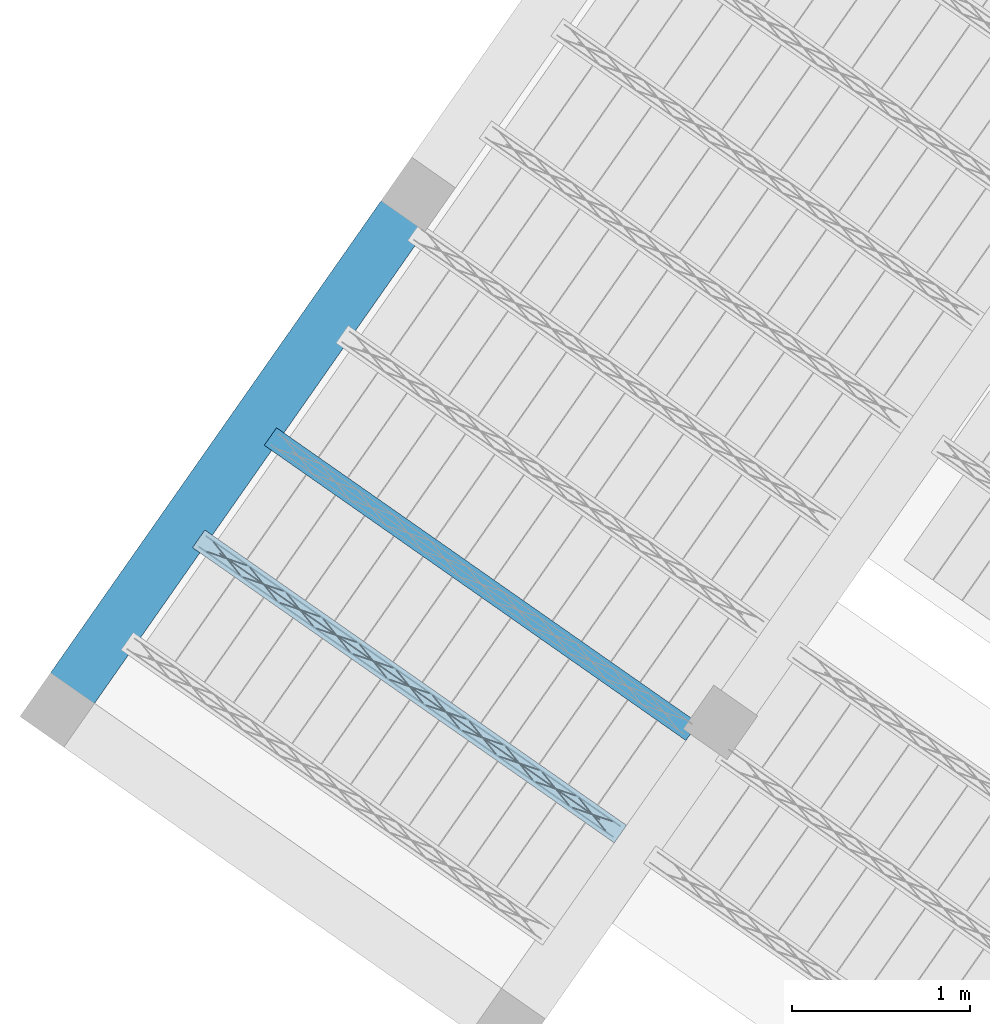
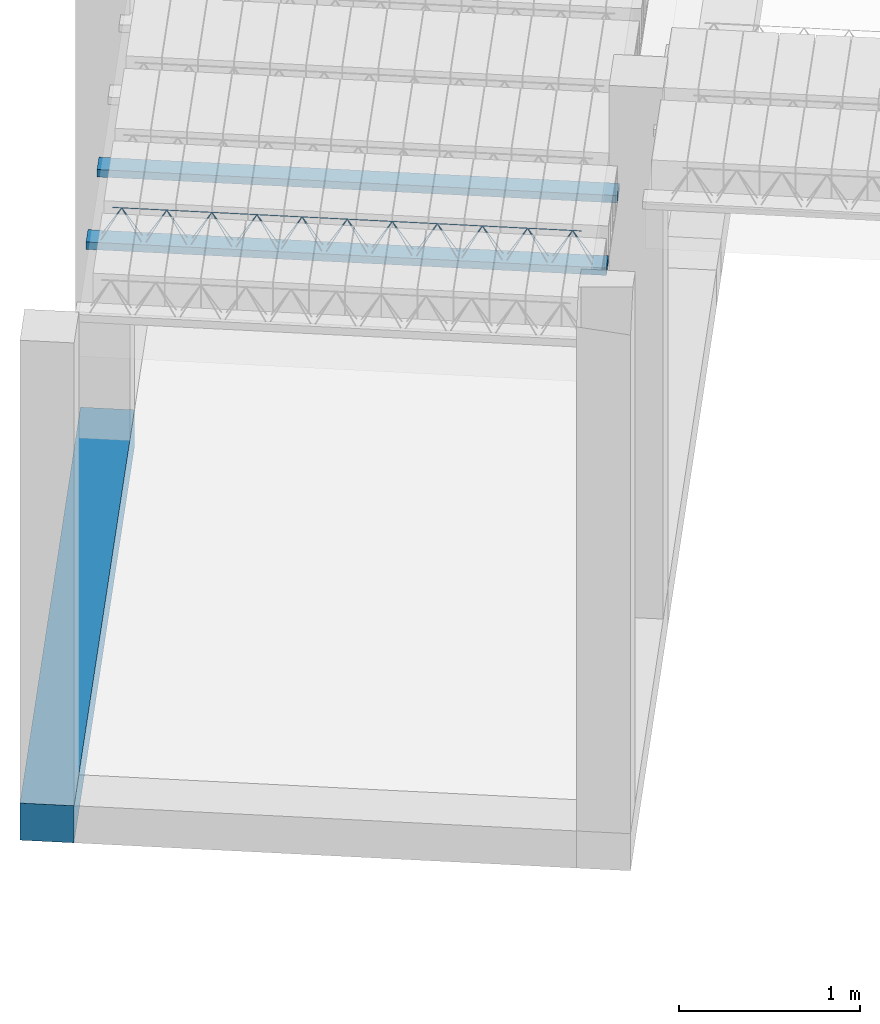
# One storey, part 11 of 80: 3 beams.
"""IFC2X3 building model written with IfcOpenShell, lengths in metres."""

from ifc_helpers import new_model, entity, si_unit, converted_unit, derived_unit, direction, frame, frame_2d, origin, origin_2d_with_axis, place, context, subcontext, project, spatial, rectangle, circle, extrude, material, type_object, element, save


model = new_model("IFC2X3")

# Units and contexts
model_context = context("Model", 3, precision=1e-05, world=origin(), true_north=direction((6.123031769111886e-17, 1.0)))
body_context = subcontext(model_context, "Body", "Model", "MODEL_VIEW")
ifc_project = project(units=[si_unit("LENGTHUNIT", "METRE"), si_unit("AREAUNIT", "SQUARE_METRE"), si_unit("VOLUMEUNIT", "CUBIC_METRE"), converted_unit("PLANEANGLEUNIT", "DEGREE", entity("IfcPlaneAngleMeasure", 0.017453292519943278), si_unit("PLANEANGLEUNIT", "RADIAN"), dimensions=[0, 0, 0, 0, 0, 0, 0]), si_unit("MASSUNIT", "GRAM", prefix="KILO"), derived_unit("MASSDENSITYUNIT", [(si_unit("MASSUNIT", "GRAM", prefix="KILO"), 1), (si_unit("LENGTHUNIT", "METRE"), -3)]), derived_unit("IONCONCENTRATIONUNIT", [(si_unit("MASSUNIT", "GRAM", prefix="KILO"), 1), (si_unit("LENGTHUNIT", "METRE"), -3)]), derived_unit("MOMENTOFINERTIAUNIT", [(si_unit("LENGTHUNIT", "METRE"), 4)]), si_unit("TIMEUNIT", "SECOND"), si_unit("FREQUENCYUNIT", "HERTZ"), si_unit("THERMODYNAMICTEMPERATUREUNIT", "DEGREE_CELSIUS"), derived_unit("THERMALTRANSMITTANCEUNIT", [(si_unit("MASSUNIT", "GRAM", prefix="KILO"), 1), (si_unit("THERMODYNAMICTEMPERATUREUNIT", "KELVIN"), -1), (si_unit("TIMEUNIT", "SECOND"), -3)]), derived_unit("THERMALCONDUCTANCEUNIT", [(si_unit("MASSUNIT", "GRAM", prefix="KILO"), 1), (si_unit("THERMODYNAMICTEMPERATUREUNIT", "KELVIN"), -1), (si_unit("TIMEUNIT", "SECOND"), -3), (si_unit("LENGTHUNIT", "METRE"), 1)]), derived_unit("VOLUMETRICFLOWRATEUNIT", [(si_unit("LENGTHUNIT", "METRE", prefix="DECI"), 3), (si_unit("TIMEUNIT", "SECOND"), -1)]), derived_unit("MASSFLOWRATEUNIT", [(si_unit("MASSUNIT", "GRAM", prefix="KILO"), 1), (si_unit("TIMEUNIT", "SECOND"), -1)]), derived_unit("ROTATIONALFREQUENCYUNIT", [(si_unit("TIMEUNIT", "SECOND"), -1)]), si_unit("ELECTRICCURRENTUNIT", "AMPERE"), si_unit("ELECTRICVOLTAGEUNIT", "VOLT"), si_unit("POWERUNIT", "WATT"), si_unit("FORCEUNIT", "NEWTON", prefix="KILO"), si_unit("ILLUMINANCEUNIT", "LUX"), si_unit("LUMINOUSFLUXUNIT", "LUMEN"), si_unit("LUMINOUSINTENSITYUNIT", "CANDELA"), si_unit("ENERGYUNIT", "JOULE"), derived_unit("USERDEFINED", [(si_unit("MASSUNIT", "GRAM", prefix="KILO"), -1), (si_unit("LENGTHUNIT", "METRE"), -2), (si_unit("TIMEUNIT", "SECOND"), 3), (si_unit("LUMINOUSFLUXUNIT", "LUMEN"), 1)]), derived_unit("USERDEFINED", [(si_unit("MASSUNIT", "GRAM", prefix="KILO"), 1), (si_unit("TIMEUNIT", "SECOND"), -3), (si_unit("LENGTHUNIT", "METRE"), 3), (si_unit("ELECTRICCURRENTUNIT", "AMPERE"), -2)]), derived_unit("SOUNDPOWERUNIT", [(si_unit("MASSUNIT", "GRAM", prefix="KILO"), 1), (si_unit("TIMEUNIT", "SECOND"), -3), (si_unit("LENGTHUNIT", "METRE"), 2)]), derived_unit("SOUNDPRESSUREUNIT", [(si_unit("MASSUNIT", "GRAM", prefix="KILO"), 1), (si_unit("LENGTHUNIT", "METRE"), -1), (si_unit("TIMEUNIT", "SECOND"), -2)]), derived_unit("LINEARVELOCITYUNIT", [(si_unit("LENGTHUNIT", "METRE"), 1), (si_unit("TIMEUNIT", "SECOND"), -1)]), si_unit("PRESSUREUNIT", "PASCAL"), derived_unit("USERDEFINED", [(si_unit("MASSUNIT", "GRAM", prefix="KILO"), 1), (si_unit("LENGTHUNIT", "METRE"), -2), (si_unit("TIMEUNIT", "SECOND"), -2)]), derived_unit("LINEARFORCEUNIT", [(si_unit("MASSUNIT", "GRAM", prefix="KILO"), 1), (si_unit("TIMEUNIT", "SECOND"), -2)]), derived_unit("PLANARFORCEUNIT", [(si_unit("MASSUNIT", "GRAM", prefix="KILO"), 1), (si_unit("LENGTHUNIT", "METRE"), -1), (si_unit("TIMEUNIT", "SECOND"), -2)]), derived_unit("SPECIFICHEATCAPACITYUNIT", [(si_unit("THERMODYNAMICTEMPERATUREUNIT", "KELVIN"), -1), (si_unit("LENGTHUNIT", "METRE"), 2), (si_unit("TIMEUNIT", "SECOND"), -2)]), derived_unit("HEATFLUXDENSITYUNIT", [(si_unit("MASSUNIT", "GRAM", prefix="KILO"), 1), (si_unit("TIMEUNIT", "SECOND"), -3)]), derived_unit("HEATINGVALUEUNIT", [(si_unit("LENGTHUNIT", "METRE"), 2), (si_unit("TIMEUNIT", "SECOND"), -2)]), derived_unit("VAPORPERMEABILITYUNIT", [(si_unit("LENGTHUNIT", "METRE"), -1), (si_unit("TIMEUNIT", "SECOND"), 1)]), derived_unit("DYNAMICVISCOSITYUNIT", [(si_unit("MASSUNIT", "GRAM", prefix="KILO"), 1), (si_unit("TIMEUNIT", "SECOND"), -1), (si_unit("LENGTHUNIT", "METRE"), -1)]), derived_unit("THERMALEXPANSIONCOEFFICIENTUNIT", [(si_unit("THERMODYNAMICTEMPERATUREUNIT", "KELVIN"), -1)]), derived_unit("MODULUSOFELASTICITYUNIT", [(si_unit("MASSUNIT", "GRAM", prefix="KILO"), 1), (si_unit("LENGTHUNIT", "METRE"), -1), (si_unit("TIMEUNIT", "SECOND"), -2)]), derived_unit("ISOTHERMALMOISTURECAPACITYUNIT", [(si_unit("MASSUNIT", "GRAM", prefix="KILO"), -1), (si_unit("LENGTHUNIT", "METRE"), 3)]), derived_unit("MOISTUREDIFFUSIVITYUNIT", [(si_unit("TIMEUNIT", "SECOND"), -1), (si_unit("LENGTHUNIT", "METRE"), 2)]), derived_unit("MASSPERLENGTHUNIT", [(si_unit("MASSUNIT", "GRAM", prefix="KILO"), 1), (si_unit("LENGTHUNIT", "METRE"), -1)]), derived_unit("THERMALRESISTANCEUNIT", [(si_unit("MASSUNIT", "GRAM", prefix="KILO"), -1), (si_unit("TIMEUNIT", "SECOND"), 3), (si_unit("THERMODYNAMICTEMPERATUREUNIT", "KELVIN"), 1)]), derived_unit("ACCELERATIONUNIT", [(si_unit("LENGTHUNIT", "METRE"), 1), (si_unit("TIMEUNIT", "SECOND"), -2)]), derived_unit("ANGULARVELOCITYUNIT", [(si_unit("TIMEUNIT", "SECOND"), -1), (si_unit("PLANEANGLEUNIT", "RADIAN"), 1)]), derived_unit("LINEARSTIFFNESSUNIT", [(si_unit("MASSUNIT", "GRAM", prefix="KILO"), 1), (si_unit("TIMEUNIT", "SECOND"), -2)]), derived_unit("WARPINGCONSTANTUNIT", [(si_unit("LENGTHUNIT", "METRE"), 6)]), derived_unit("LINEARMOMENTUNIT", [(si_unit("MASSUNIT", "GRAM", prefix="KILO"), 1), (si_unit("LENGTHUNIT", "METRE"), 1), (si_unit("TIMEUNIT", "SECOND"), -2)]), derived_unit("TORQUEUNIT", [(si_unit("MASSUNIT", "GRAM", prefix="KILO"), 1), (si_unit("LENGTHUNIT", "METRE"), 2), (si_unit("TIMEUNIT", "SECOND"), -2)])], contexts=[model_context])

# Site, building, storey
site_placement = place(None, origin())
site = spatial("IfcSite", under=ifc_project, at=site_placement, Name="Default", CompositionType="ELEMENT")
building_placement = place(site_placement, origin())
building = spatial("IfcBuilding", under=site, at=building_placement, CompositionType="ELEMENT")
storey_placement = place(building_placement, frame((0.0, 0.0, 95.94)))
storey = spatial("IfcBuildingStorey", under=building, at=storey_placement, Name="PB", CompositionType="ELEMENT", Elevation=95.94)

# Beams
beam_type = type_object("IfcBeamType", Name="Vigueta 2 (Paño 2) (Mf = 10.94)", PredefinedType="JOIST")
beam_1_placement = place(storey_placement, origin())
element("IfcBeam", 1, at=beam_1_placement, inside=storey, type_object=beam_type, Name="Vigueta 2 (Paño 2) (Mf = 10.94)", ObjectType="Mf = 10.94", context=body_context, shape_type="SweptSolid", body=[
    extrude(rectangle(XDim=2.884744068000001, YDim=0.11999999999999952, at=frame_2d((0.0, 1.3530843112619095e-16), x_axis=(1.0, 0.0))), frame((0.40279148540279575, 2.465049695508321, 2.82), z_axis=(0.0, 0.0, 1.0), x_axis=(0.8191520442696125, -0.5735764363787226, 0.0)), (0.0, 0.0, 1.0), 0.04999999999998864),
    extrude(circle(Radius=0.0025, at=origin_2d_with_axis()), frame((-0.7797196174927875, 3.2491049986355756, 2.8449999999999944), z_axis=(0.8191520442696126, -0.5735764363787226, 0.0), x_axis=(-0.5735764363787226, -0.8191520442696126, 0.0)), (0.0, 0.0, 1.0), 2.836744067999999),
    extrude(circle(Radius=0.0025, at=origin_2d_with_axis()), frame((-0.662106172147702, 3.210699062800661, 3.069999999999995), z_axis=(0.8191520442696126, -0.5735764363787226, 0.0), x_axis=(-0.5735764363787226, -0.8191520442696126, 0.0)), (0.0, 0.0, 1.0), 2.5999999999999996),
    extrude(circle(Radius=0.0025, at=origin_2d_with_axis()), frame((1.5084767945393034, 1.6468926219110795, 2.8449999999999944), z_axis=(-0.3145304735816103, 0.389334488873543, 0.8657304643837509), x_axis=(-0.7778747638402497, -0.6284193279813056, 0.0)), (0.0, 0.0, 1.0), 0.2598961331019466),
    extrude(circle(Radius=0.0025, at=origin_2d_with_axis()), frame((1.3036887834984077, 1.7902867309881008, 2.8449999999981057), z_axis=(0.47343050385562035, -0.1624017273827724, 0.8657304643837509), x_axis=(-0.3244721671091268, -0.9458952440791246, 0.0)), (0.0, 0.0, 1.0), 0.25989613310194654),
    extrude(circle(Radius=0.0025, at=origin_2d_with_axis()), frame((1.3036887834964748, 1.7902867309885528, 2.8449999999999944), z_axis=(-0.3145304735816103, 0.389334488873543, 0.8657304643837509), x_axis=(-0.7778747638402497, -0.6284193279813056, 0.0)), (0.0, 0.0, 1.0), 0.2598961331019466),
    extrude(circle(Radius=0.0025, at=origin_2d_with_axis()), frame((1.0989007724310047, 1.9336808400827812, 2.8449999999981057), z_axis=(0.47343050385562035, -0.1624017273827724, 0.8657304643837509), x_axis=(-0.3244721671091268, -0.9458952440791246, 0.0)), (0.0, 0.0, 1.0), 0.25989613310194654),
    extrude(circle(Radius=0.0025, at=origin_2d_with_axis()), frame((1.0989007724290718, 1.9336808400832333, 2.8449999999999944), z_axis=(-0.3145304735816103, 0.389334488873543, 0.8657304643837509), x_axis=(-0.7778747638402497, -0.6284193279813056, 0.0)), (0.0, 0.0, 1.0), 0.2598961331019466),
    extrude(circle(Radius=0.0025, at=origin_2d_with_axis()), frame((0.8941127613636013, 2.077074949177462, 2.8449999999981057), z_axis=(0.47343050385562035, -0.1624017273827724, 0.8657304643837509), x_axis=(-0.3244721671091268, -0.9458952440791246, 0.0)), (0.0, 0.0, 1.0), 0.25989613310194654),
    extrude(circle(Radius=0.0025, at=origin_2d_with_axis()), frame((0.8941127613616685, 2.077074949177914, 2.8449999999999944), z_axis=(-0.3145304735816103, 0.389334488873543, 0.8657304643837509), x_axis=(-0.7778747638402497, -0.6284193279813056, 0.0)), (0.0, 0.0, 1.0), 0.2598961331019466),
    extrude(circle(Radius=0.0025, at=origin_2d_with_axis()), frame((0.6893247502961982, 2.2204690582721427, 2.8449999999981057), z_axis=(0.47343050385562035, -0.1624017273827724, 0.8657304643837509), x_axis=(-0.3244721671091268, -0.9458952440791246, 0.0)), (0.0, 0.0, 1.0), 0.25989613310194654),
    extrude(circle(Radius=0.0025, at=origin_2d_with_axis()), frame((0.6893247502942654, 2.2204690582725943, 2.8449999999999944), z_axis=(-0.3145304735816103, 0.389334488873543, 0.8657304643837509), x_axis=(-0.7778747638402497, -0.6284193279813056, 0.0)), (0.0, 0.0, 1.0), 0.2598961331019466),
    extrude(circle(Radius=0.0025, at=origin_2d_with_axis()), frame((0.4845367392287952, 2.3638631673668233, 2.8449999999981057), z_axis=(0.47343050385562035, -0.1624017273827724, 0.8657304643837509), x_axis=(-0.3244721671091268, -0.9458952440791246, 0.0)), (0.0, 0.0, 1.0), 0.25989613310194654),
    extrude(circle(Radius=0.0025, at=origin_2d_with_axis()), frame((0.4845367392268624, 2.363863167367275, 2.8449999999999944), z_axis=(-0.3145304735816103, 0.389334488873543, 0.8657304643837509), x_axis=(-0.7778747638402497, -0.6284193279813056, 0.0)), (0.0, 0.0, 1.0), 0.2598961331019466),
    extrude(circle(Radius=0.0025, at=origin_2d_with_axis()), frame((0.2797487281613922, 2.5072572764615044, 2.8449999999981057), z_axis=(0.47343050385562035, -0.1624017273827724, 0.8657304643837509), x_axis=(-0.3244721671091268, -0.9458952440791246, 0.0)), (0.0, 0.0, 1.0), 0.25989613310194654),
    extrude(circle(Radius=0.0025, at=origin_2d_with_axis()), frame((0.2797487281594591, 2.507257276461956, 2.8449999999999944), z_axis=(-0.3145304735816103, 0.389334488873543, 0.8657304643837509), x_axis=(-0.7778747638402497, -0.6284193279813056, 0.0)), (0.0, 0.0, 1.0), 0.2598961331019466),
    extrude(circle(Radius=0.0025, at=origin_2d_with_axis()), frame((0.07496071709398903, 2.6506513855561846, 2.8449999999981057), z_axis=(0.47343050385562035, -0.1624017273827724, 0.8657304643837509), x_axis=(-0.3244721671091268, -0.9458952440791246, 0.0)), (0.0, 0.0, 1.0), 0.25989613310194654),
    extrude(circle(Radius=0.0025, at=origin_2d_with_axis()), frame((0.07496071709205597, 2.6506513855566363, 2.8449999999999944), z_axis=(-0.3145304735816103, 0.389334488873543, 0.8657304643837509), x_axis=(-0.7778747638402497, -0.6284193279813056, 0.0)), (0.0, 0.0, 1.0), 0.2598961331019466),
    extrude(circle(Radius=0.0025, at=origin_2d_with_axis()), frame((-0.1298272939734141, 2.7940454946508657, 2.8449999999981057), z_axis=(0.47343050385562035, -0.1624017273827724, 0.8657304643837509), x_axis=(-0.3244721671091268, -0.9458952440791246, 0.0)), (0.0, 0.0, 1.0), 0.25989613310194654),
    extrude(circle(Radius=0.0025, at=origin_2d_with_axis()), frame((-0.12982729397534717, 2.794045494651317, 2.8449999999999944), z_axis=(-0.3145304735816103, 0.389334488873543, 0.8657304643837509), x_axis=(-0.7778747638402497, -0.6284193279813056, 0.0)), (0.0, 0.0, 1.0), 0.2598961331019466),
    extrude(circle(Radius=0.0025, at=origin_2d_with_axis()), frame((-0.33461530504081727, 2.9374396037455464, 2.8449999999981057), z_axis=(0.47343050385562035, -0.1624017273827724, 0.8657304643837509), x_axis=(-0.3244721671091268, -0.9458952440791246, 0.0)), (0.0, 0.0, 1.0), 0.25989613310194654),
    extrude(circle(Radius=0.0025, at=origin_2d_with_axis()), frame((-0.33461530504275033, 2.937439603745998, 2.8449999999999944), z_axis=(-0.3145304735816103, 0.389334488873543, 0.8657304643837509), x_axis=(-0.7778747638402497, -0.6284193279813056, 0.0)), (0.0, 0.0, 1.0), 0.2598961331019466),
    extrude(circle(Radius=0.0025, at=origin_2d_with_axis()), frame((-0.5394033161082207, 3.0808337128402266, 2.8449999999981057), z_axis=(0.47343050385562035, -0.1624017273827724, 0.8657304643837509), x_axis=(-0.3244721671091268, -0.9458952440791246, 0.0)), (0.0, 0.0, 1.0), 0.25989613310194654),
    extrude(circle(Radius=0.0025, at=origin_2d_with_axis()), frame((-0.5394033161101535, 3.080833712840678, 2.8449999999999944), z_axis=(-0.3145304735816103, 0.389334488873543, 0.8657304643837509), x_axis=(-0.7778747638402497, -0.6284193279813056, 0.0)), (0.0, 0.0, 1.0), 0.2598961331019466),
    extrude(circle(Radius=0.0025, at=origin_2d_with_axis()), frame((-0.7441913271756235, 3.224227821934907, 2.8449999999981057), z_axis=(0.47343050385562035, -0.1624017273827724, 0.8657304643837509), x_axis=(-0.3244721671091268, -0.9458952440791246, 0.0)), (0.0, 0.0, 1.0), 0.25989613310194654),
    extrude(circle(Radius=0.0025, at=origin_2d_with_axis()), frame((1.5853025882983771, 1.6809943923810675, 2.8449999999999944), z_axis=(-0.8191520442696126, 0.5735764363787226, 0.0), x_axis=(-0.5735764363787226, -0.8191520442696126, 0.0)), (0.0, 0.0, 1.0), 2.836744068),
    extrude(circle(Radius=0.0025, at=origin_2d_with_axis()), frame((1.5497742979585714, 1.7058715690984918, 2.8449999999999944), z_axis=(-0.47343050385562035, 0.1624017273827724, 0.8657304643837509), x_axis=(-0.3244721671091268, -0.9458952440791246, 0.0)), (0.0, 0.0, 1.0), 0.25989613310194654),
    extrude(circle(Radius=0.0025, at=origin_2d_with_axis()), frame((1.3449862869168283, 1.849265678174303, 2.8449999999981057), z_axis=(0.3145304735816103, -0.389334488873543, 0.8657304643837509), x_axis=(-0.7778747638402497, -0.6284193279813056, 0.0)), (0.0, 0.0, 1.0), 0.2598961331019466),
    extrude(circle(Radius=0.0025, at=origin_2d_with_axis()), frame((1.3449862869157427, 1.8492656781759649, 2.8449999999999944), z_axis=(-0.47343050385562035, 0.1624017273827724, 0.8657304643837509), x_axis=(-0.3244721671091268, -0.9458952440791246, 0.0)), (0.0, 0.0, 1.0), 0.25989613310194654),
    extrude(circle(Radius=0.0025, at=origin_2d_with_axis()), frame((1.1401982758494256, 1.9926597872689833, 2.8449999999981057), z_axis=(0.3145304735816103, -0.389334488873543, 0.8657304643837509), x_axis=(-0.7778747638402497, -0.6284193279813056, 0.0)), (0.0, 0.0, 1.0), 0.2598961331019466),
    extrude(circle(Radius=0.0025, at=origin_2d_with_axis()), frame((1.1401982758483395, 1.9926597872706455, 2.8449999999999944), z_axis=(-0.47343050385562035, 0.1624017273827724, 0.8657304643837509), x_axis=(-0.3244721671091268, -0.9458952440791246, 0.0)), (0.0, 0.0, 1.0), 0.25989613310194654),
    extrude(circle(Radius=0.0025, at=origin_2d_with_axis()), frame((0.9354102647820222, 2.136053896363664, 2.8449999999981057), z_axis=(0.3145304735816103, -0.389334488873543, 0.8657304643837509), x_axis=(-0.7778747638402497, -0.6284193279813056, 0.0)), (0.0, 0.0, 1.0), 0.2598961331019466),
    extrude(circle(Radius=0.0025, at=origin_2d_with_axis()), frame((0.9354102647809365, 2.136053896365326, 2.8449999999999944), z_axis=(-0.47343050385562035, 0.1624017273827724, 0.8657304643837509), x_axis=(-0.3244721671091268, -0.9458952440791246, 0.0)), (0.0, 0.0, 1.0), 0.25989613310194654),
    extrude(circle(Radius=0.0025, at=origin_2d_with_axis()), frame((0.7306222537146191, 2.2794480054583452, 2.8449999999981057), z_axis=(0.3145304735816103, -0.389334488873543, 0.8657304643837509), x_axis=(-0.7778747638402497, -0.6284193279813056, 0.0)), (0.0, 0.0, 1.0), 0.2598961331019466),
    extrude(circle(Radius=0.0025, at=origin_2d_with_axis()), frame((0.7306222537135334, 2.2794480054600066, 2.8449999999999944), z_axis=(-0.47343050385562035, 0.1624017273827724, 0.8657304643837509), x_axis=(-0.3244721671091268, -0.9458952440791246, 0.0)), (0.0, 0.0, 1.0), 0.25989613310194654),
    extrude(circle(Radius=0.0025, at=origin_2d_with_axis()), frame((0.525834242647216, 2.4228421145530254, 2.8449999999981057), z_axis=(0.3145304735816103, -0.389334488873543, 0.8657304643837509), x_axis=(-0.7778747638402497, -0.6284193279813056, 0.0)), (0.0, 0.0, 1.0), 0.2598961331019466),
    extrude(circle(Radius=0.0025, at=origin_2d_with_axis()), frame((0.5258342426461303, 2.4228421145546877, 2.8449999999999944), z_axis=(-0.47343050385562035, 0.1624017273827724, 0.8657304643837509), x_axis=(-0.3244721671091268, -0.9458952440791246, 0.0)), (0.0, 0.0, 1.0), 0.25989613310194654),
    extrude(circle(Radius=0.0025, at=origin_2d_with_axis()), frame((0.32104623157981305, 2.566236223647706, 2.8449999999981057), z_axis=(0.3145304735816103, -0.389334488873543, 0.8657304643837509), x_axis=(-0.7778747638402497, -0.6284193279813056, 0.0)), (0.0, 0.0, 1.0), 0.2598961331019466),
    extrude(circle(Radius=0.0025, at=origin_2d_with_axis()), frame((0.3210462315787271, 2.566236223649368, 2.8449999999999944), z_axis=(-0.47343050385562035, 0.1624017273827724, 0.8657304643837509), x_axis=(-0.3244721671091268, -0.9458952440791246, 0.0)), (0.0, 0.0, 1.0), 0.25989613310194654),
    extrude(circle(Radius=0.0025, at=origin_2d_with_axis()), frame((0.11625822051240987, 2.7096303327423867, 2.8449999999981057), z_axis=(0.3145304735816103, -0.389334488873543, 0.8657304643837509), x_axis=(-0.7778747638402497, -0.6284193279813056, 0.0)), (0.0, 0.0, 1.0), 0.2598961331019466),
    extrude(circle(Radius=0.0025, at=origin_2d_with_axis()), frame((0.11625822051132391, 2.7096303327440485, 2.8449999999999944), z_axis=(-0.47343050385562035, 0.1624017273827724, 0.8657304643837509), x_axis=(-0.3244721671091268, -0.9458952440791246, 0.0)), (0.0, 0.0, 1.0), 0.25989613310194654),
    extrude(circle(Radius=0.0025, at=origin_2d_with_axis()), frame((-0.08852979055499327, 2.8530244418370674, 2.8449999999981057), z_axis=(0.3145304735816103, -0.389334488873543, 0.8657304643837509), x_axis=(-0.7778747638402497, -0.6284193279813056, 0.0)), (0.0, 0.0, 1.0), 0.2598961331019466),
    extrude(circle(Radius=0.0025, at=origin_2d_with_axis()), frame((-0.08852979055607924, 2.8530244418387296, 2.8449999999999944), z_axis=(-0.47343050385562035, 0.1624017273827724, 0.8657304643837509), x_axis=(-0.3244721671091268, -0.9458952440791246, 0.0)), (0.0, 0.0, 1.0), 0.25989613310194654),
    extrude(circle(Radius=0.0025, at=origin_2d_with_axis()), frame((-0.2933178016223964, 2.996418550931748, 2.8449999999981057), z_axis=(0.3145304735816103, -0.389334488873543, 0.8657304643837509), x_axis=(-0.7778747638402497, -0.6284193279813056, 0.0)), (0.0, 0.0, 1.0), 0.2598961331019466),
    extrude(circle(Radius=0.0025, at=origin_2d_with_axis()), frame((-0.29331780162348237, 2.99641855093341, 2.8449999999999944), z_axis=(-0.47343050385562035, 0.1624017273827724, 0.8657304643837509), x_axis=(-0.3244721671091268, -0.9458952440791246, 0.0)), (0.0, 0.0, 1.0), 0.25989613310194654),
    extrude(circle(Radius=0.0025, at=origin_2d_with_axis()), frame((-0.4981058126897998, 3.1398126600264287, 2.8449999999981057), z_axis=(0.3145304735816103, -0.389334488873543, 0.8657304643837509), x_axis=(-0.7778747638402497, -0.6284193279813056, 0.0)), (0.0, 0.0, 1.0), 0.2598961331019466),
    extrude(circle(Radius=0.0025, at=origin_2d_with_axis()), frame((-0.49810581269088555, 3.139812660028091, 2.8449999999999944), z_axis=(-0.47343050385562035, 0.1624017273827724, 0.8657304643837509), x_axis=(-0.3244721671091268, -0.9458952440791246, 0.0)), (0.0, 0.0, 1.0), 0.25989613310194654),
    extrude(circle(Radius=0.0025, at=origin_2d_with_axis()), frame((-0.7028938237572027, 3.283206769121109, 2.8449999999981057), z_axis=(0.3145304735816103, -0.389334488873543, 0.8657304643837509), x_axis=(-0.7778747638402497, -0.6284193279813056, 0.0)), (0.0, 0.0, 1.0), 0.2598961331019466),
])
ifc_material = material(Name="Hormigón armado")
beam_2_placement = place(storey_placement, origin())
element("IfcBeam", 2, at=beam_2_placement, inside=storey, material=ifc_material, Name="Viga 4 (30x25)", ObjectType="30x25", context=body_context, shape_type="SweptSolid", body=[
    extrude(rectangle(XDim=0.2500000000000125, YDim=0.3000000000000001, at=origin_2d_with_axis()), frame((-1.6577922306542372, 2.21075953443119, -0.12500000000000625), z_axis=(0.5735764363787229, 0.8191520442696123, 0.0), x_axis=(0.0, 0.0, 1.0)), (0.0, 0.0, 1.0), 3.82697903),
])
beam_3_placement = place(storey_placement, origin())
element("IfcBeam", 3, at=beam_3_placement, inside=storey, material=ifc_material, Name="237963", context=body_context, shape_type="SweptSolid", body=[
    extrude(rectangle(XDim=0.04999999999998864, YDim=0.1199999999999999, at=frame_2d((1.7324683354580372e-14, 3.0531133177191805e-16), x_axis=(1.0, 0.0))), frame((-0.37719812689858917, 3.86574651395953, 2.8450000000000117), z_axis=(0.8191520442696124, -0.5735764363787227, 0.0), x_axis=(0.0, 0.0, -1.0)), (0.0, 0.0, 1.0), 2.8847088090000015),
])

save(model, "model.ifc")
